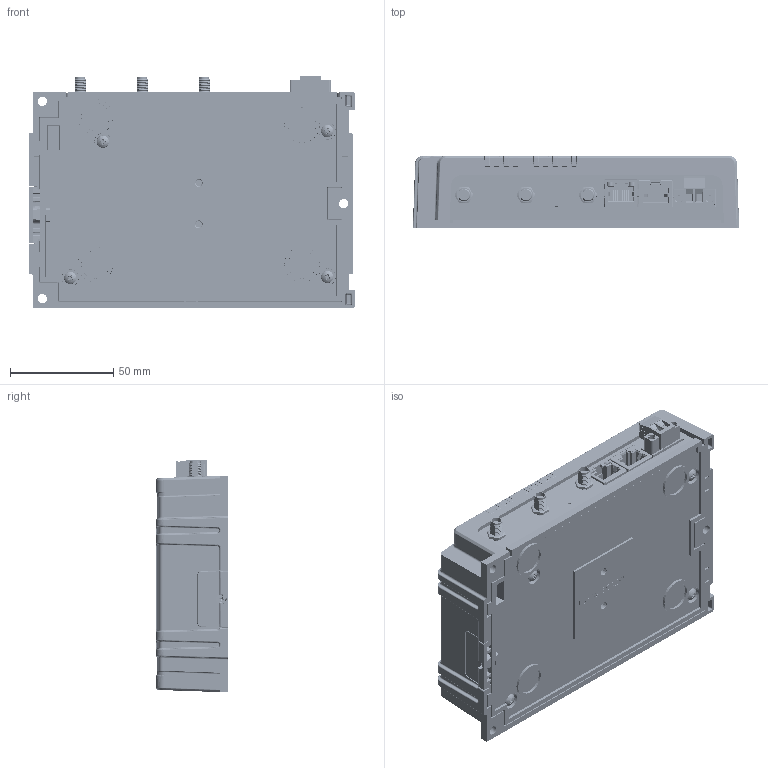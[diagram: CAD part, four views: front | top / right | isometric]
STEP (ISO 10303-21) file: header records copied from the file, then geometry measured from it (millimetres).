
FILE_DESCRIPTION (( 'STEP AP203' ), '1' );
FILE_NAME ('50002036-XX REV A1.STEP', '2021-03-31T14:43:21', ( 'Digi User' ), ( 'Digi International' ), 'SwSTEP 2.0', 'SolidWorks 2020', '' );
FILE_SCHEMA (( 'CONFIG_CONTROL_DESIGN' ));
Length unit declared in the file: millimetre
Products named in the file (890): 235.step; R127.step; C67.step; R45.step; 176.step; 237.step; R120.step; E-RS8_different_step_style.step; R30.step; R67.step; 165.step; L23.step; U6.step; 28.step; C195.step; R49.step; 140.step; D21.step; XBee_SMT_Castellated-15.step; R3.step; 55001924-01.step; R132.step; 289.step; 283.step; 56.step; 208.step; C124.step; R61.step; C96.step; Extruded-8.step; R73.step; C94.step; 253.step; DS1.step; 178.step; R151.step; 92.step; C204.step; XBee_SMT_Castellated-U.FL-0.step; 64.step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
Assembly tree (1424 placements, depth 9):
  50002036-XX REV A1
    64001488-XX
      64001488-01
      94180A351_HEAT-SET INSERTS FOR PLASTICS M4 X 07_94180A351  x2
      94459A110_BRASS HEAT-SET INSERT FOR PLASTIC M2 X 04_94459A110
    64001489-01
      64001489-01
      94459A110_BRASS HEAT-SET INSERT FOR PLASTIC M2 X 04_94459A110  x2
      94180A351_HEAT-SET INSERTS FOR PLASTICS M4 X 07_94180A351  x4
      94180A331_HEAT-SET INSERTS FOR PLASTICS M3 X 05_94180A331  x4
    64001510-01
    64001505-01_Light Pipe 1x  x9
    64001493-01
    26000175
      26000175.stp
        SMA-RF-CBL.stp
        SMA_NUT.stp
    26000175
      26000175.stp
        SMA-RF-CBL.stp
        SMA_NUT.stp
    26000175
      26000175.stp
        SMA-RF-CBL.stp
        SMA_NUT.stp
    60006413-01
    60006414-01
    12000518_95836A335  x2
    12000260_91698A304
    64001402-XX_64001402-04
    12000195_95836A107  x2
    95022602
    12000209  x2
    12000621_95836A209  x4
    18000724
    64001402-XX_64001402-02  x2
    91698A201_METRIC 18-8 SS FLAT HEAD PHIL MACHINE SCREW_91698A201
    55002066-xx-RevB
      3001626x-02_A.step
        Board.step
          Open CASCADE STEP translator 6.8 1.1.1.step
        LBL1.step
          6765760208.step
            Extruded.step
        MOD4.step
          XBee_SMT_Castellated-U.FL.step  x2
          XBee_SMT_Castellated-U.FL-0.step
          XBee_SMT_Castellated-U.FL-1.step  x2
          XBee_SMT_Castellated-U.FL-2.step
          XBee_SMT_Castellated-U.FL-3.step  x2
          XBee_SMT_Castellated-U.FL-4.step
        DS6.step
          17000132.step
        MOD4-1.step
          XBee_SMT_Castellated-U.FL.step  x2
          XBee_SMT_Castellated-U.FL-0.step
          XBee_SMT_Castellated-U.FL-1.step  x2
          XBee_SMT_Castellated-U.FL-2.step
          XBee_SMT_Castellated-U.FL-3.step  x2
          XBee_SMT_Castellated-U.FL-4.step
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Bounding box: 157.9 x 35.06 x 112.65 mm (x, y, z)
Volume: 253311.8 mm3; surface area: 283752.8 mm2
Topology: 1005 solids, 1014 shells, 46364 faces, 123583 edges, 79388 vertices
Faces by surface type: plane 30046, cylinder 9181, bspline 4902, torus 889, cone 707, sphere 639
Entity records: 878878 total; most frequent: CARTESIAN_POINT 287428, ORIENTED_EDGE 104482, DIRECTION 94559, EDGE_CURVE 52252, VERTEX_POINT 34309, VECTOR 33569, LINE 33569, AXIS2_PLACEMENT_3D 30495
